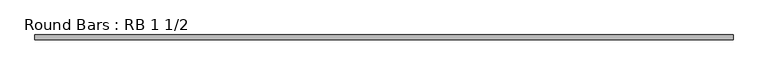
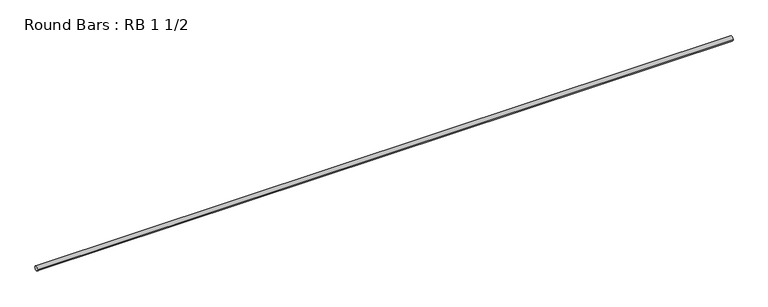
"""IFC4 building model written with IfcOpenShell, lengths in millimetres: member geometry, Round Bars : RB 1 1/2."""

from ifc_helpers import new_model, si_unit, point, frame, origin, origin_2d, place, context, project, spatial, circle_curve, trimmed, segment, composite_curve, outline, extrude, source, transform, mapped, element, save


def round_bars_rb_1_1_2_148da2b3(model_context):
    return source(origin(), model_context, "Body", "SweptSolid", [
        extrude(outline(composite_curve([segment(trimmed(circle_curve(origin_2d(), 19.05), [point((19.05, 0.0))], [point((-19.05, 0.0))], False, "CARTESIAN"), True, "CONTINUOUS"), segment(trimmed(circle_curve(origin_2d(), 19.05), [point((-19.05, 0.0))], [point((19.05, 0.0))], False, "CARTESIAN"), True, "CONTINUOUS")], self_intersect=False)), frame((-2828.050179, 0.0, 0.0), z_axis=(1.0, 0.0, 0.0), x_axis=(0.0, 1.0, 0.0)), (0.0, 0.0, 1.0), 5656.100358),
    ])


if __name__ == "__main__":
    model = new_model("IFC4")
    model_context = context("Model", 3, world=origin())
    ifc_project = project(units=[si_unit("LENGTHUNIT", "METRE", prefix="MILLI")], contexts=[model_context])
    site = spatial("IfcSite", under=ifc_project)
    building = spatial("IfcBuilding", under=site)
    placement = place(None, origin())
    round_bars_rb_1_1_2_shape = round_bars_rb_1_1_2_148da2b3(model_context)
    element("IfcMember", 1, ObjectType="Round Bars : RB 1 1/2", at=placement, inside=building, context=model_context, shape_type="MappedRepresentation", body=[
        mapped(round_bars_rb_1_1_2_shape, transform((0.0, 0.0, 0.0), x_axis=(1.0, 0.0, 0.0), y_axis=(0.0, 1.0, 0.0), z_axis=(0.0, 0.0, 1.0))),
    ])
    save(model, "model.ifc")
